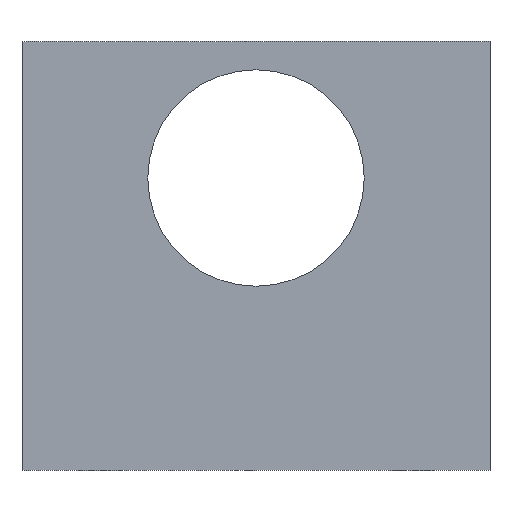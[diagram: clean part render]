
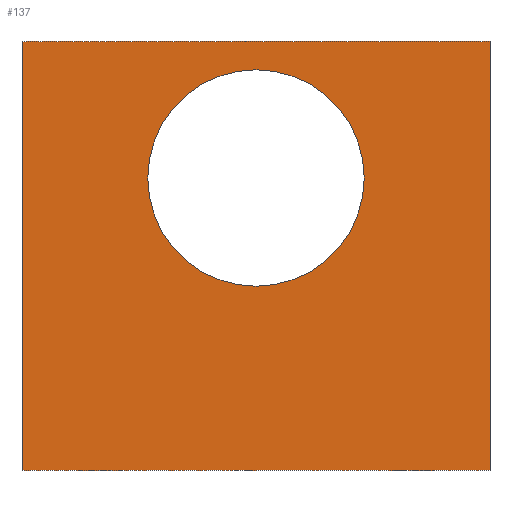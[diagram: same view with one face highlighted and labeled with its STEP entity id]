
A CAD part, front view. The second image highlights one B-rep face of the part: STEP entity #137.
In plain terms, the highlighted planar face has unit normal (0, -1, 0).
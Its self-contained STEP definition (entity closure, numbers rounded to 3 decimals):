
#21 = EDGE_CURVE('',#22,#24,#26,.T.);
#22 = VERTEX_POINT('',#23);
#23 = CARTESIAN_POINT('',(-24.,-8.,0.));
#24 = VERTEX_POINT('',#25);
#25 = CARTESIAN_POINT('',(-24.,-8.,44.));
#26 = SURFACE_CURVE('',#27,(#31,#43),.PCURVE_S1.);
#27 = LINE('',#28,#29);
#28 = CARTESIAN_POINT('',(-24.,-8.,0.));
#29 = VECTOR('',#30,1.);
#30 = DIRECTION('',(0.,0.,1.));
#31 = PCURVE('',#32,#37);
#32 = PLANE('',#33);
#33 = AXIS2_PLACEMENT_3D('',#34,#35,#36);
#34 = CARTESIAN_POINT('',(-24.,-8.,0.));
#35 = DIRECTION('',(1.,0.,0.));
#36 = DIRECTION('',(0.,0.,1.));
#37 = DEFINITIONAL_REPRESENTATION('',(#38),#42);
#38 = LINE('',#39,#40);
#39 = CARTESIAN_POINT('',(0.,0.));
#40 = VECTOR('',#41,1.);
#41 = DIRECTION('',(1.,0.));
#42 = ( GEOMETRIC_REPRESENTATION_CONTEXT(2) 
PARAMETRIC_REPRESENTATION_CONTEXT() REPRESENTATION_CONTEXT('2D SPACE',''
  ) );
#43 = PCURVE('',#44,#49);
#44 = PLANE('',#45);
#45 = AXIS2_PLACEMENT_3D('',#46,#47,#48);
#46 = CARTESIAN_POINT('',(-24.,-8.,0.));
#47 = DIRECTION('',(0.,1.,0.));
#48 = DIRECTION('',(0.,0.,1.));
#49 = DEFINITIONAL_REPRESENTATION('',(#50),#54);
#50 = LINE('',#51,#52);
#51 = CARTESIAN_POINT('',(0.,0.));
#52 = VECTOR('',#53,1.);
#53 = DIRECTION('',(1.,0.));
#54 = ( GEOMETRIC_REPRESENTATION_CONTEXT(2) 
PARAMETRIC_REPRESENTATION_CONTEXT() REPRESENTATION_CONTEXT('2D SPACE',''
  ) );
#72 = PLANE('',#73);
#73 = AXIS2_PLACEMENT_3D('',#74,#75,#76);
#74 = CARTESIAN_POINT('',(-24.,-8.,0.));
#75 = DIRECTION('',(0.,0.,1.));
#76 = DIRECTION('',(1.,0.,0.));
#126 = PLANE('',#127);
#127 = AXIS2_PLACEMENT_3D('',#128,#129,#130);
#128 = CARTESIAN_POINT('',(-24.,-8.,44.));
#129 = DIRECTION('',(0.,0.,1.));
#130 = DIRECTION('',(1.,0.,0.));
#137 = ADVANCED_FACE('',(#138,#213),#44,.F.);
#138 = FACE_BOUND('',#139,.F.);
#139 = EDGE_LOOP('',(#140,#163,#164,#187));
#140 = ORIENTED_EDGE('',*,*,#141,.F.);
#141 = EDGE_CURVE('',#22,#142,#144,.T.);
#142 = VERTEX_POINT('',#143);
#143 = CARTESIAN_POINT('',(24.,-8.,0.));
#144 = SURFACE_CURVE('',#145,(#149,#156),.PCURVE_S1.);
#145 = LINE('',#146,#147);
#146 = CARTESIAN_POINT('',(-24.,-8.,0.));
#147 = VECTOR('',#148,1.);
#148 = DIRECTION('',(1.,0.,0.));
#149 = PCURVE('',#44,#150);
#150 = DEFINITIONAL_REPRESENTATION('',(#151),#155);
#151 = LINE('',#152,#153);
#152 = CARTESIAN_POINT('',(0.,0.));
#153 = VECTOR('',#154,1.);
#154 = DIRECTION('',(0.,1.));
#155 = ( GEOMETRIC_REPRESENTATION_CONTEXT(2) 
PARAMETRIC_REPRESENTATION_CONTEXT() REPRESENTATION_CONTEXT('2D SPACE',''
  ) );
#156 = PCURVE('',#72,#157);
#157 = DEFINITIONAL_REPRESENTATION('',(#158),#162);
#158 = LINE('',#159,#160);
#159 = CARTESIAN_POINT('',(0.,0.));
#160 = VECTOR('',#161,1.);
#161 = DIRECTION('',(1.,0.));
#162 = ( GEOMETRIC_REPRESENTATION_CONTEXT(2) 
PARAMETRIC_REPRESENTATION_CONTEXT() REPRESENTATION_CONTEXT('2D SPACE',''
  ) );
#163 = ORIENTED_EDGE('',*,*,#21,.T.);
#164 = ORIENTED_EDGE('',*,*,#165,.T.);
#165 = EDGE_CURVE('',#24,#166,#168,.T.);
#166 = VERTEX_POINT('',#167);
#167 = CARTESIAN_POINT('',(24.,-8.,44.));
#168 = SURFACE_CURVE('',#169,(#173,#180),.PCURVE_S1.);
#169 = LINE('',#170,#171);
#170 = CARTESIAN_POINT('',(-24.,-8.,44.));
#171 = VECTOR('',#172,1.);
#172 = DIRECTION('',(1.,0.,0.));
#173 = PCURVE('',#44,#174);
#174 = DEFINITIONAL_REPRESENTATION('',(#175),#179);
#175 = LINE('',#176,#177);
#176 = CARTESIAN_POINT('',(44.,0.));
#177 = VECTOR('',#178,1.);
#178 = DIRECTION('',(0.,1.));
#179 = ( GEOMETRIC_REPRESENTATION_CONTEXT(2) 
PARAMETRIC_REPRESENTATION_CONTEXT() REPRESENTATION_CONTEXT('2D SPACE',''
  ) );
#180 = PCURVE('',#126,#181);
#181 = DEFINITIONAL_REPRESENTATION('',(#182),#186);
#182 = LINE('',#183,#184);
#183 = CARTESIAN_POINT('',(0.,0.));
#184 = VECTOR('',#185,1.);
#185 = DIRECTION('',(1.,0.));
#186 = ( GEOMETRIC_REPRESENTATION_CONTEXT(2) 
PARAMETRIC_REPRESENTATION_CONTEXT() REPRESENTATION_CONTEXT('2D SPACE',''
  ) );
#187 = ORIENTED_EDGE('',*,*,#188,.F.);
#188 = EDGE_CURVE('',#142,#166,#189,.T.);
#189 = SURFACE_CURVE('',#190,(#194,#201),.PCURVE_S1.);
#190 = LINE('',#191,#192);
#191 = CARTESIAN_POINT('',(24.,-8.,0.));
#192 = VECTOR('',#193,1.);
#193 = DIRECTION('',(0.,0.,1.));
#194 = PCURVE('',#44,#195);
#195 = DEFINITIONAL_REPRESENTATION('',(#196),#200);
#196 = LINE('',#197,#198);
#197 = CARTESIAN_POINT('',(0.,48.));
#198 = VECTOR('',#199,1.);
#199 = DIRECTION('',(1.,0.));
#200 = ( GEOMETRIC_REPRESENTATION_CONTEXT(2) 
PARAMETRIC_REPRESENTATION_CONTEXT() REPRESENTATION_CONTEXT('2D SPACE',''
  ) );
#201 = PCURVE('',#202,#207);
#202 = PLANE('',#203);
#203 = AXIS2_PLACEMENT_3D('',#204,#205,#206);
#204 = CARTESIAN_POINT('',(24.,-8.,0.));
#205 = DIRECTION('',(1.,0.,0.));
#206 = DIRECTION('',(0.,0.,1.));
#207 = DEFINITIONAL_REPRESENTATION('',(#208),#212);
#208 = LINE('',#209,#210);
#209 = CARTESIAN_POINT('',(0.,0.));
#210 = VECTOR('',#211,1.);
#211 = DIRECTION('',(1.,0.));
#212 = ( GEOMETRIC_REPRESENTATION_CONTEXT(2) 
PARAMETRIC_REPRESENTATION_CONTEXT() REPRESENTATION_CONTEXT('2D SPACE',''
  ) );
#213 = FACE_BOUND('',#214,.F.);
#214 = EDGE_LOOP('',(#215));
#215 = ORIENTED_EDGE('',*,*,#216,.F.);
#216 = EDGE_CURVE('',#217,#217,#219,.T.);
#217 = VERTEX_POINT('',#218);
#218 = CARTESIAN_POINT('',(11.1,-8.,30.));
#219 = SURFACE_CURVE('',#220,(#225,#232),.PCURVE_S1.);
#220 = CIRCLE('',#221,11.1);
#221 = AXIS2_PLACEMENT_3D('',#222,#223,#224);
#222 = CARTESIAN_POINT('',(0.,-8.,30.));
#223 = DIRECTION('',(-0.,1.,0.));
#224 = DIRECTION('',(1.,0.,0.));
#225 = PCURVE('',#44,#226);
#226 = DEFINITIONAL_REPRESENTATION('',(#227),#231);
#227 = CIRCLE('',#228,11.1);
#228 = AXIS2_PLACEMENT_2D('',#229,#230);
#229 = CARTESIAN_POINT('',(30.,24.));
#230 = DIRECTION('',(0.,1.));
#231 = ( GEOMETRIC_REPRESENTATION_CONTEXT(2) 
PARAMETRIC_REPRESENTATION_CONTEXT() REPRESENTATION_CONTEXT('2D SPACE',''
  ) );
#232 = PCURVE('',#233,#238);
#233 = CYLINDRICAL_SURFACE('',#234,11.1);
#234 = AXIS2_PLACEMENT_3D('',#235,#236,#237);
#235 = CARTESIAN_POINT('',(0.,9.,30.));
#236 = DIRECTION('',(-0.,1.,-0.));
#237 = DIRECTION('',(1.,0.,0.));
#238 = DEFINITIONAL_REPRESENTATION('',(#239),#243);
#239 = LINE('',#240,#241);
#240 = CARTESIAN_POINT('',(-6.283,-17.));
#241 = VECTOR('',#242,1.);
#242 = DIRECTION('',(1.,-0.));
#243 = ( GEOMETRIC_REPRESENTATION_CONTEXT(2) 
PARAMETRIC_REPRESENTATION_CONTEXT() REPRESENTATION_CONTEXT('2D SPACE',''
  ) );
